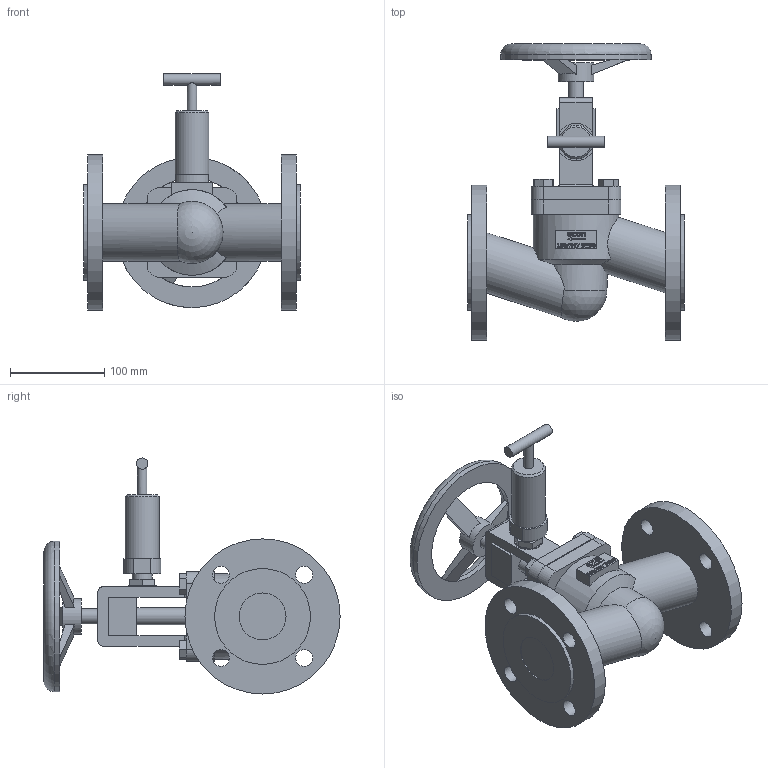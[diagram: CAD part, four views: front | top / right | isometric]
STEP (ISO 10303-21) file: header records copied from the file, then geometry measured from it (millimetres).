
FILE_DESCRIPTION(/* description */ (''),/* implementation_level */ '2;1');
FILE_NAME(/* name */ '100-247HP-DN50-PN16.stp',/* time_stamp */ '2024-07-08T21:38:40+02:00',/* author */ ('roger.thijssen'),/* organization */ (''),/* preprocessor_version */ 'ST-DEVELOPER v20',/* originating_system */ 'Autodesk Inventor 2024',/* authorisation */ '');
FILE_SCHEMA (('AUTOMOTIVE_DESIGN { 1 0 10303 214 3 1 1 }'));
Length unit declared in the file: millimetre
Products named in the file (1): 100-247HP-DN50-PN16
Bounding box: 230 x 315 x 251 mm (x, y, z)
Volume: 2312585.9 mm3; surface area: 264321.1 mm2
Topology: 1 solids, 1 shells, 377 faces, 979 edges, 644 vertices
Faces by surface type: plane 242, bspline 68, cylinder 62, cone 3, torus 1, sphere 1
Full cylindrical faces by diameter (mm): 10 x1, 12 x1, 16 x1, 18 x9, 21 x1, 30 x1, 36 x1, 38 x1, 50 x2, 61 x2, 75 x1, 91 x1, 102 x2, 116 x1, 160 x1, 165 x2
Entity records: 12745 total; most frequent: CARTESIAN_POINT 3337, ORIENTED_EDGE 1956, DIRECTION 1599, EDGE_CURVE 978, LINE 667, VECTOR 667, VERTEX_POINT 644, AXIS2_PLACEMENT_3D 466
